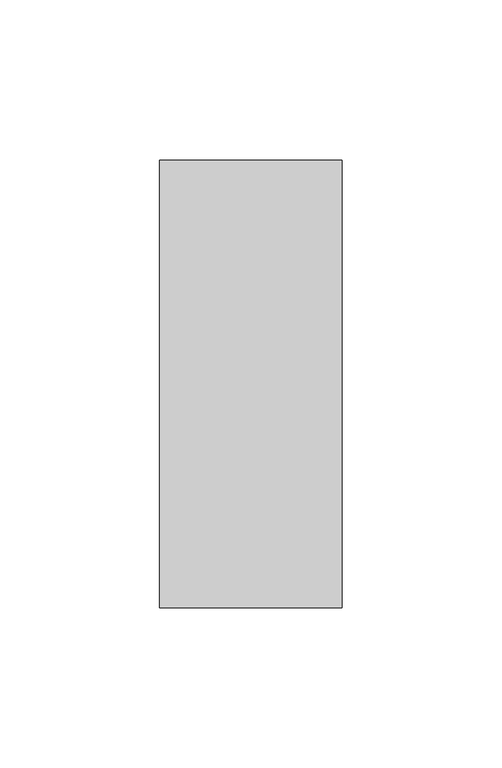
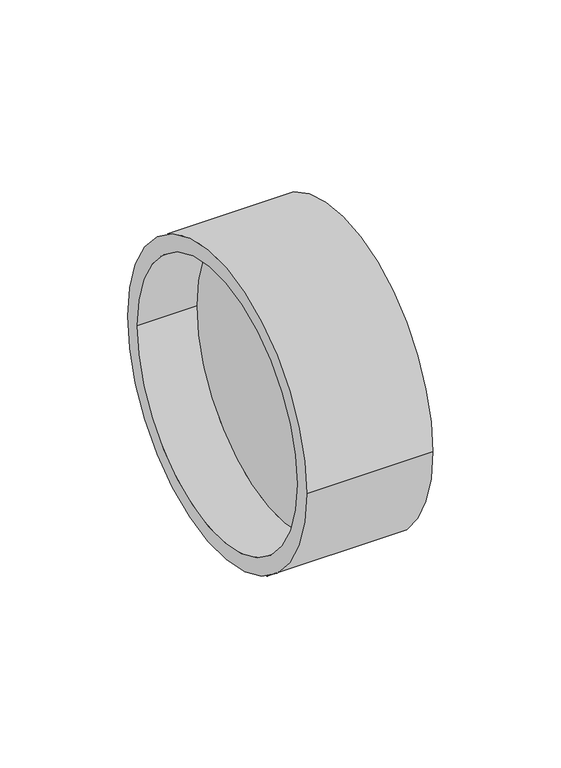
"""IFC4 building model written with IfcOpenShell, lengths in millimetres: pipe fitting geometry, NLRS_52_PIF_UN_Geberit overgangsklemkoppeling_PRO_101613 : d48-210 / ø48-210."""

from ifc_helpers import new_model, si_unit, frame, origin, place, context, project, spatial, polyline, circle_curve, source, transform, mapped, element, save
from ifc_brep_helpers import plane_surface, cylinder_surface, revolved_surface, advanced_brep


def pipe_fitting_f48e95e4(model_context):
    return source(origin(), model_context, "Body", "AdvancedBrep", [
        advanced_brep(
        [(28.5, -70.0, 0.0), (28.5, 70.0, 0.0), (28.5, 62.5, 0.0), (28.5, -62.5, 0.0), (-28.5, -70.0, 0.0), (-28.5, 70.0, 0.0), (-28.5, -62.5, 0.0), (-28.5, 62.5, 0.0), (-1.5, -62.5, 0.0), (-1.5, 62.5, 0.0), (1.5, -62.5, 0.0), (1.5, 62.5, 0.0)],
        [
            (0, 1, circle_curve(frame((28.5, 0.0, 0.0), z_axis=(1.0, 0.0, 0.0), x_axis=(0.0, 1.0, 0.0)), 70.0)),
            (1, 0, circle_curve(frame((28.5, 0.0, 0.0), z_axis=(1.0, 0.0, 0.0), x_axis=(0.0, 1.0, 0.0)), 70.0)),
            (2, 3, circle_curve(frame((28.5, 0.0, 0.0), z_axis=(-1.0, 0.0, 0.0), x_axis=(0.0, 1.0, 0.0)), 62.5)),
            (3, 2, circle_curve(frame((28.5, 0.0, 0.0), z_axis=(-1.0, 0.0, 0.0), x_axis=(0.0, 1.0, 0.0)), 62.5)),
            (4, 5, circle_curve(frame((-28.5, 0.0, 0.0), z_axis=(-1.0, 0.0, 0.0), x_axis=(0.0, 1.0, 0.0)), 70.0)),
            (5, 4, circle_curve(frame((-28.5, 0.0, 0.0), z_axis=(-1.0, 0.0, 0.0), x_axis=(0.0, 1.0, 0.0)), 70.0)),
            (6, 7, circle_curve(frame((-28.5, 0.0, 0.0), z_axis=(1.0, 0.0, 0.0), x_axis=(0.0, 1.0, 0.0)), 62.5)),
            (7, 6, circle_curve(frame((-28.5, 0.0, 0.0), z_axis=(1.0, 0.0, 0.0), x_axis=(0.0, 1.0, 0.0)), 62.5)),
            (0, 4),
            (5, 1),
            (8, 9, circle_curve(frame((-1.5, 0.0, 0.0), z_axis=(-1.0, 0.0, 0.0), x_axis=(0.0, 1.0, 0.0)), 62.5)),
            (9, 8, circle_curve(frame((-1.5, 0.0, 0.0), z_axis=(-1.0, 0.0, 0.0), x_axis=(0.0, 1.0, 0.0)), 62.5)),
            (9, 7),
            (6, 8),
            (10, 11, circle_curve(frame((1.5, 0.0, 0.0), z_axis=(1.0, 0.0, 0.0), x_axis=(0.0, 1.0, 0.0)), 62.5)),
            (11, 10, circle_curve(frame((1.5, 0.0, 0.0), z_axis=(1.0, 0.0, 0.0), x_axis=(0.0, 1.0, 0.0)), 62.5)),
            (10, 3),
            (2, 11),
        ],
        [
            plane_surface(frame((28.5, 70.0, 0.0), z_axis=(1.0, 0.0, 0.0), x_axis=(0.0, 0.0, 1.0))),
            plane_surface(frame((-28.5, 70.0, 0.0), z_axis=(-1.0, 0.0, 0.0), x_axis=(0.0, 0.0, -1.0))),
            cylinder_surface(frame((-28.5, 0.0, 0.0), z_axis=(1.0, 0.0, 0.0), x_axis=(0.0, 1.0, 0.0)), 70.0),
            plane_surface(frame((-1.5, 62.5, 0.0), z_axis=(-1.0, 0.0, 0.0), x_axis=(0.0, 0.0, 1.0))),
            revolved_surface(polyline([(-1.5, 62.5, 0.0), (-28.5, 62.5, 0.0)]), (-28.5, 0.0, 0.0), (1.0, 0.0, 0.0)),
            plane_surface(frame((1.5, 62.5, 0.0), z_axis=(1.0, 0.0, 0.0), x_axis=(0.0, 0.0, -1.0))),
            revolved_surface(polyline([(28.5, 62.5, 0.0), (1.5, 62.5, 0.0)]), (1.5, 0.0, 0.0), (1.0, 0.0, 0.0)),
        ],
        [
            (0, [[1, 2], [3, 4]]),
            (1, [[5, 6], [7, 8]]),
            (2, [[-1, 9, -6, 10]]),
            (2, [[-2, -10, -5, -9]]),
            (3, [[11, 12]]),
            (4, [[-12, 13, -7, 14]]),
            (4, [[-11, -14, -8, -13]]),
            (5, [[15, 16]]),
            (6, [[-15, 17, -3, 18]]),
            (6, [[-16, -18, -4, -17]]),
        ],
    ),
    ])


if __name__ == "__main__":
    model = new_model("IFC4")
    model_context = context("Model", 3, world=origin())
    ifc_project = project(units=[si_unit("LENGTHUNIT", "METRE", prefix="MILLI")], contexts=[model_context])
    site = spatial("IfcSite", under=ifc_project)
    building = spatial("IfcBuilding", under=site)
    placement = place(None, origin())
    pipe_fitting_shape = pipe_fitting_f48e95e4(model_context)
    element("IfcPipeFitting", 1, ObjectType="NLRS_52_PIF_UN_Geberit overgangsklemkoppeling_PRO_101613 : d48-210 / ø48-210", at=placement, inside=building, context=model_context, shape_type="MappedRepresentation", body=[
        mapped(pipe_fitting_shape, transform((0.0, 0.0, 0.0), x_axis=(1.0, 0.0, 0.0), y_axis=(0.0, 1.0, 0.0), z_axis=(0.0, 0.0, 1.0))),
    ])
    save(model, "model.ifc")
